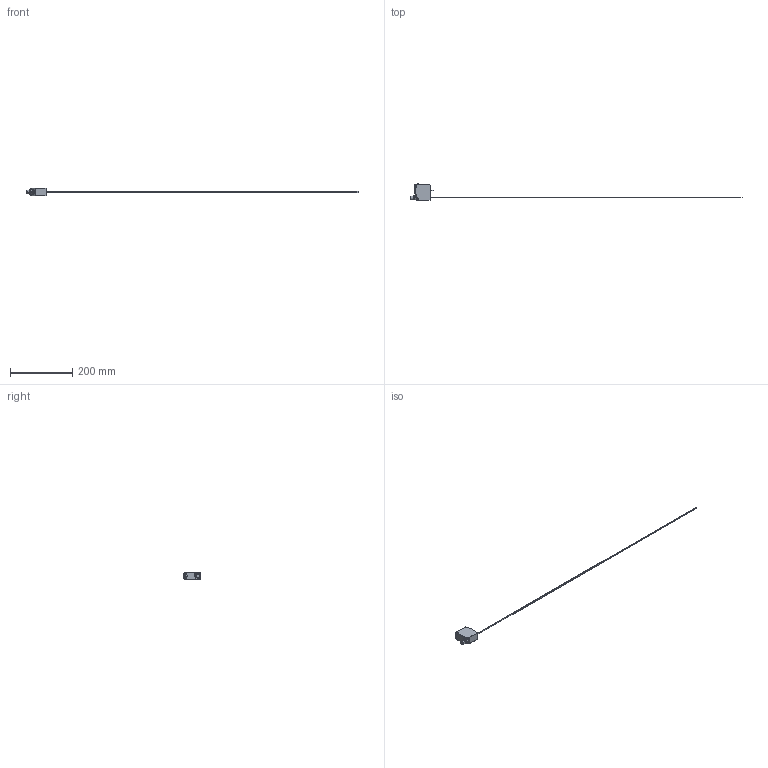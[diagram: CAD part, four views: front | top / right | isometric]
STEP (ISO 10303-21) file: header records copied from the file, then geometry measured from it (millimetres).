
FILE_DESCRIPTION(/* description */ (''),/* implementation_level */ '2;1');
FILE_NAME(/* name */ '624-41009_FT 55-RL2AM-800-PNSUIDL-L5M.stp',/* time_stamp */ '2023-10-05T13:15:07+02:00',/* author */ ('Sandra.Stahl'),/* organization */ (''),/* preprocessor_version */ 'ST-DEVELOPER v19.2',/* originating_system */ 'Autodesk Inventor 2023',/* authorisation */ '');
FILE_SCHEMA (('AUTOMOTIVE_DESIGN { 1 0 10303 214 3 1 1 }'));
Length unit declared in the file: millimetre
Products named in the file (1): GH-ENG-0039532_Vereinfachen_1
Bounding box: 1064.52 x 52.11 x 25 mm (x, y, z)
Volume: 65558.9 mm3; surface area: 21963.7 mm2
Topology: 4 solids, 4 shells, 252 faces, 611 edges, 382 vertices
Faces by surface type: plane 93, cylinder 49, cone 42, bspline 30, sphere 20, torus 18
Full cylindrical faces by diameter (mm): 1 x1, 4.1 x3, 8.9 x1, 13 x1, 15.5 x1
Entity records: 9365 total; most frequent: CARTESIAN_POINT 3341, ORIENTED_EDGE 1218, DIRECTION 1147, EDGE_CURVE 609, AXIS2_PLACEMENT_3D 446, VERTEX_POINT 381, EDGE_LOOP 272, STYLED_ITEM 256
